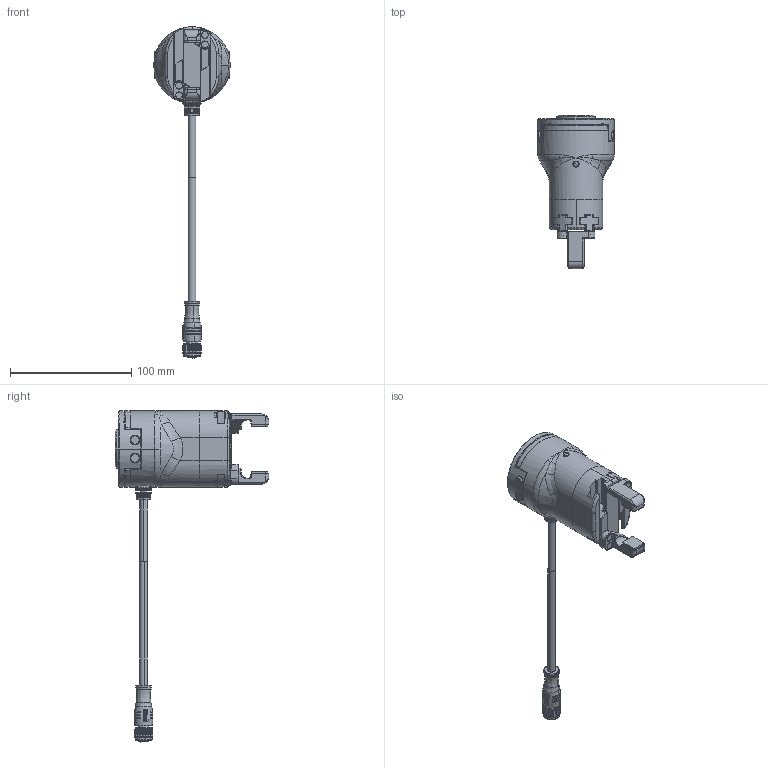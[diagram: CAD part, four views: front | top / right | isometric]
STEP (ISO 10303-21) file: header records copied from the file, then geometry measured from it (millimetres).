
FILE_DESCRIPTION (( 'STEP AP203' ), '1' );
FILE_NAME ('PGC-50-35-O-S_潠眢耀倰_V2.0_20230720.STEP', '2023-07-20T10:26:52', ( '' ), ( '' ), 'SwSTEP 2.0', 'SolidWorks 2020', '' );
FILE_SCHEMA (( 'CONFIG_CONTROL_DESIGN' ));
Length unit declared in the file: millimetre
Products named in the file (4): PGC-50-35-O-S_潠眢耀倰_V2.0_20230720; 手指组件2^PGC-50-35-O-S_简易模型_v1.0_20230310; 手指组件1^PGC-50-35-O-S_简易模型_v1.0_20230310; 翋极^PGC-50-35-O-S_潠眢耀倰_v1.0_20230310
Assembly tree (3 placements, depth 2):
  PGC-50-35-O-S_潠眢耀倰_V2.0_20230720
    翋极^PGC-50-35-O-S_潠眢耀倰_v1.0_20230310
    手指组件1^PGC-50-35-O-S_简易模型_v1.0_20230310
    手指组件2^PGC-50-35-O-S_简易模型_v1.0_20230310
Bounding box: 63 x 127.02 x 274.25 mm (x, y, z)
Volume: 17586.4 mm3; surface area: 65571.2 mm2
Topology: 10 solids, 25 shells, 1401 faces, 3465 edges, 2166 vertices
Faces by surface type: plane 533, cylinder 336, bspline 279, cone 210, torus 41, sphere 2
Full cylindrical faces by diameter (mm): 11.1 x3
Entity records: 61319 total; most frequent: CARTESIAN_POINT 30642, ORIENTED_EDGE 6826, DIRECTION 5521, EDGE_CURVE 3417, VERTEX_POINT 2154, AXIS2_PLACEMENT_3D 2100, EDGE_LOOP 1511, FACE_OUTER_BOUND 1396
